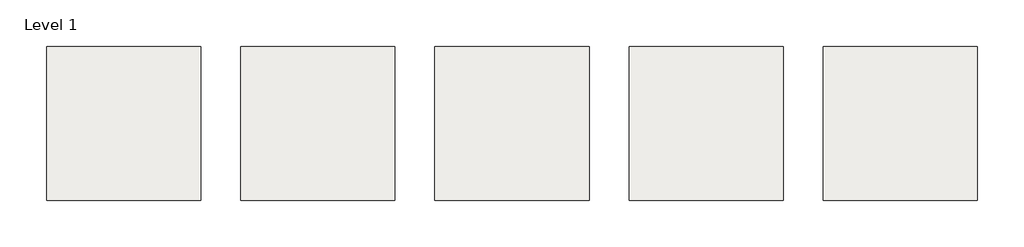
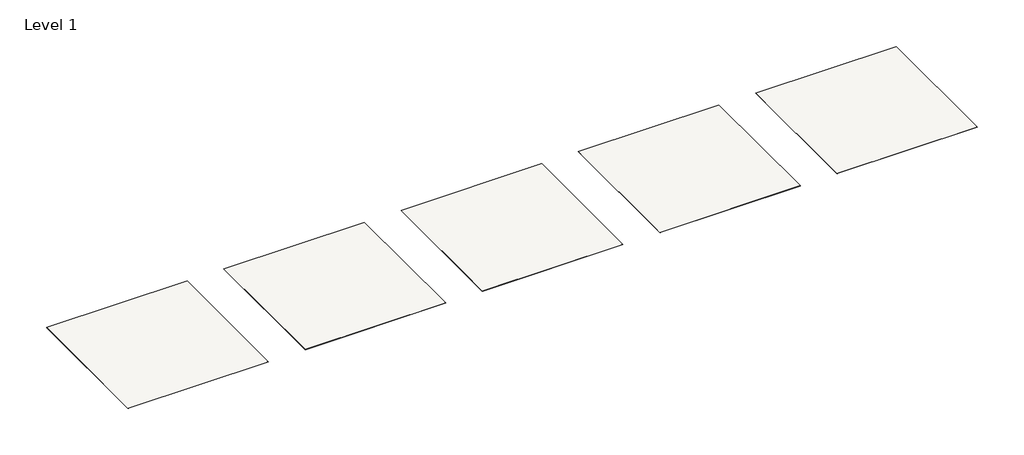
# One storey: 5 slabs.
"""IFC4 building model written with IfcOpenShell, lengths in millimetres."""

from ifc_helpers import new_model, si_unit, frame, origin, place, context, project, spatial, polyline, outline, extrude, element, save

model = new_model("IFC4")

# Units and contexts
model_context = context("Model", 3, world=origin())
ifc_project = project(units=[si_unit("LENGTHUNIT", "METRE", prefix="MILLI")], contexts=[model_context])

# Site, building, storey
site = spatial("IfcSite", under=ifc_project)
building = spatial("IfcBuilding", under=site)
storey = spatial("IfcBuildingStorey", under=building, Name="Level 1", Elevation=0.0)

# Slabs
placement = place(None, origin())
element("IfcSlab", 1, ObjectType="Thesize_Neolith_3mm+-Arena- 3600x1200 mm - Satin", at=placement, inside=storey, context=model_context, shape_type="SweptSolid", body=[
    extrude(outline(polyline([(46732.6076717, 5642.522439), (46732.6076717, 642.522439), (41732.6076717, 642.522439), (41732.6076717, 5642.522439), (46732.6076717, 5642.522439)])), frame((0.0, 0.0, -3.0), z_axis=(0.0, 0.0, 1.0), x_axis=(1.0, 0.0, 0.0)), (0.0, 0.0, 1.0), 3.0),
])
element("IfcSlab", 2, ObjectType="Thesize_Neolith_6mm+-Arena- 3200x1500 mm - Satin", at=placement, inside=storey, context=model_context, shape_type="SweptSolid", body=[
    extrude(outline(polyline([(53032.6076717, 5642.522439), (53032.6076717, 642.522439), (48032.6076717, 642.522439), (48032.6076717, 5642.522439), (53032.6076717, 5642.522439)])), frame((0.0, 0.0, -6.0), z_axis=(0.0, 0.0, 1.0), x_axis=(1.0, 0.0, 0.0)), (0.0, 0.0, 1.0), 6.0),
])
element("IfcSlab", 3, ObjectType="Thesize_Neolith_12mm-Arena- 3200x1600 mm - Satin", at=placement, inside=storey, context=model_context, shape_type="SweptSolid", body=[
    extrude(outline(polyline([(59332.6076717, 5642.5224389), (59332.6076717, 642.5224389), (54332.6076717, 642.5224389), (54332.6076717, 5642.5224389), (59332.6076717, 5642.5224389)])), frame((0.0, 0.0, -12.0), z_axis=(0.0, 0.0, 1.0), x_axis=(1.0, 0.0, 0.0)), (0.0, 0.0, 1.0), 12.0),
])
element("IfcSlab", 4, ObjectType="Thesize_Neolith_6mm+-Arena- 3600x1200 mm - Satin", at=placement, inside=storey, context=model_context, shape_type="SweptSolid", body=[
    extrude(outline(polyline([(65632.6076717, 5642.5224389), (65632.6076717, 642.5224389), (60632.6076717, 642.5224389), (60632.6076717, 5642.5224389), (65632.6076717, 5642.5224389)])), frame((0.0, 0.0, -6.0), z_axis=(0.0, 0.0, 1.0), x_axis=(1.0, 0.0, 0.0)), (0.0, 0.0, 1.0), 6.0),
])
element("IfcSlab", 5, ObjectType="Thesize_Neolith_6mm-Arena- 2600x1200 mm - Satin", at=placement, inside=storey, context=model_context, shape_type="SweptSolid", body=[
    extrude(outline(polyline([(71932.6076717, 5642.5224389), (71932.6076717, 642.5224389), (66932.6076717, 642.5224389), (66932.6076717, 5642.5224389), (71932.6076717, 5642.5224389)])), frame((0.0, 0.0, -6.0), z_axis=(0.0, 0.0, 1.0), x_axis=(1.0, 0.0, 0.0)), (0.0, 0.0, 1.0), 6.0),
])

save(model, "model.ifc")
